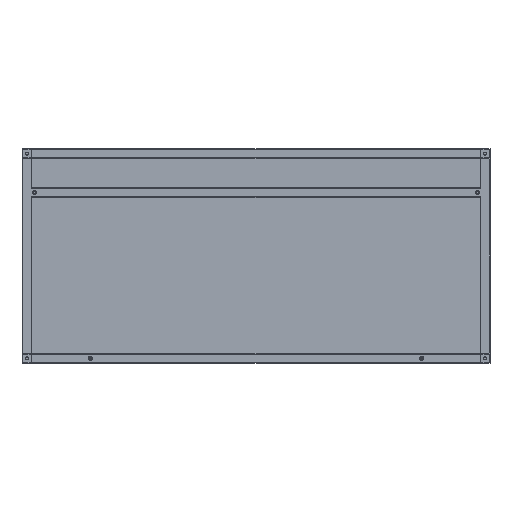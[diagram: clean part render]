
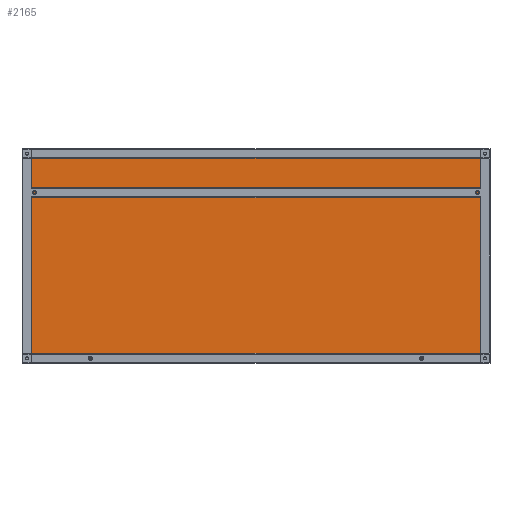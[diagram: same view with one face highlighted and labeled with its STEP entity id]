
A CAD part, front view. The second image highlights one B-rep face of the part: STEP entity #2165.
In plain terms, the highlighted planar face has unit normal (0, -1, 0) as drawn and (0, 0, -1) by its records, which use the part's own axes.
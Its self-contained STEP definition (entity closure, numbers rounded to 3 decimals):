
#3 = CARTESIAN_POINT ( 'NONE',  ( 25., 275., 0. ) ) ;
#160 = DIRECTION ( 'NONE',  ( 1., 0., 0. ) ) ;
#654 = CARTESIAN_POINT ( 'NONE',  ( 1175., 275., 0. ) ) ;
#810 = LINE ( 'NONE', #1168, #5608 ) ;
#876 = VERTEX_POINT ( 'NONE', #654 ) ;
#927 = EDGE_CURVE ( 'NONE', #3334, #5354, #5142, .T. ) ;
#1086 = EDGE_CURVE ( 'NONE', #876, #4974, #5307, .T. ) ;
#1168 = CARTESIAN_POINT ( 'NONE',  ( 1175., 275., 0. ) ) ;
#1583 = VECTOR ( 'NONE', #2022, 1000. ) ;
#2022 = DIRECTION ( 'NONE',  ( 0., -1., 0. ) ) ;
#2165 = ADVANCED_FACE ( 'NONE', ( #6139 ), #5102, .F. ) ;
#2225 = ORIENTED_EDGE ( 'NONE', *, *, #927, .F. ) ;
#2373 = EDGE_LOOP ( 'NONE', ( #5715, #4293, #2904, #2225 ) ) ;
#2543 = LINE ( 'NONE', #3, #1583 ) ;
#2623 = CARTESIAN_POINT ( 'NONE',  ( 25., -250., 0. ) ) ;
#2904 = ORIENTED_EDGE ( 'NONE', *, *, #5482, .F. ) ;
#3116 = DIRECTION ( 'NONE',  ( 1., 0., 0. ) ) ;
#3152 = DIRECTION ( 'NONE',  ( 0., 1., 0. ) ) ;
#3334 = VERTEX_POINT ( 'NONE', #2623 ) ;
#3700 = DIRECTION ( 'NONE',  ( 0., 0., 1. ) ) ;
#3992 = EDGE_CURVE ( 'NONE', #4974, #3334, #2543, .T. ) ;
#4293 = ORIENTED_EDGE ( 'NONE', *, *, #1086, .F. ) ;
#4484 = AXIS2_PLACEMENT_3D ( 'NONE', #6049, #3700, #160 ) ;
#4514 = CARTESIAN_POINT ( 'NONE',  ( 1175., -250., 0. ) ) ;
#4974 = VERTEX_POINT ( 'NONE', #6066 ) ;
#5102 = PLANE ( 'NONE',  #4484 ) ;
#5142 = LINE ( 'NONE', #6081, #5188 ) ;
#5188 = VECTOR ( 'NONE', #3116, 1000. ) ;
#5307 = LINE ( 'NONE', #5344, #6123 ) ;
#5344 = CARTESIAN_POINT ( 'NONE',  ( 25., 275., 0. ) ) ;
#5354 = VERTEX_POINT ( 'NONE', #4514 ) ;
#5371 = DIRECTION ( 'NONE',  ( -1., 0., 0. ) ) ;
#5482 = EDGE_CURVE ( 'NONE', #5354, #876, #810, .T. ) ;
#5608 = VECTOR ( 'NONE', #3152, 1000. ) ;
#5715 = ORIENTED_EDGE ( 'NONE', *, *, #3992, .F. ) ;
#6049 = CARTESIAN_POINT ( 'NONE',  ( 0., 0., 0. ) ) ;
#6066 = CARTESIAN_POINT ( 'NONE',  ( 25., 275., 0. ) ) ;
#6081 = CARTESIAN_POINT ( 'NONE',  ( 25., -250., 0. ) ) ;
#6123 = VECTOR ( 'NONE', #5371, 1000. ) ;
#6139 = FACE_OUTER_BOUND ( 'NONE', #2373, .T. ) ;
